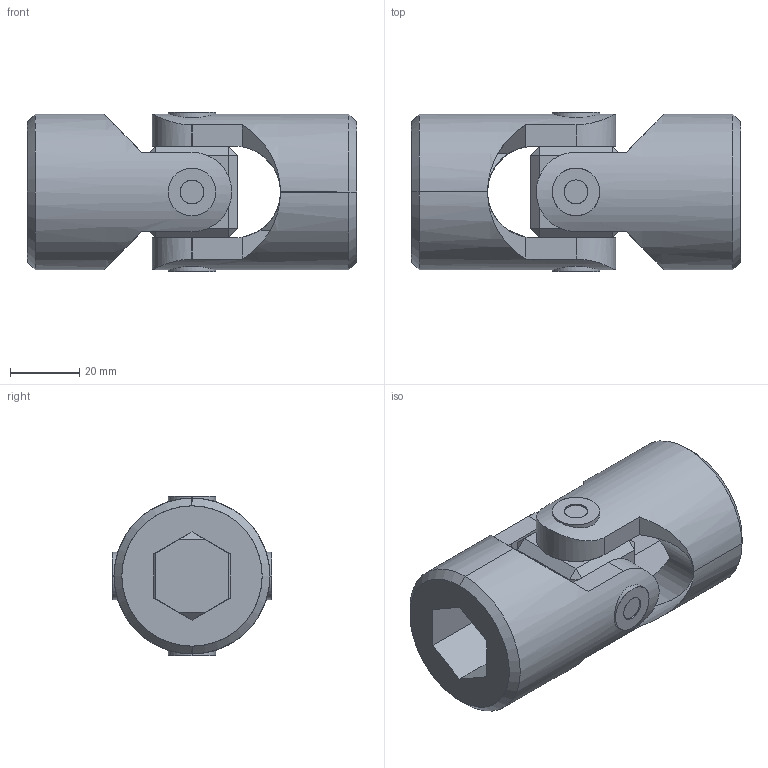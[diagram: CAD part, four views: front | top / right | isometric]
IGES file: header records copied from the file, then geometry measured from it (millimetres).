
Start section: SolidWorks IGES file using analytic representation for surfaces
Global section: file name: C:\Users\IanO\Desktop\R3690_v2\R3690_v2_20231020_IGES\R3690.022-HB.igs; native system: SolidWorks 2019; preprocessor: SolidWorks 2019; author: IanO; date: 231020.152801; units: millimetre
Bounding box: 95 x 45.9 x 45.9 mm (x, y, z)
Surface area: 31823.5 mm2 (no closed solid volume)
Topology: 0 solids, 0 shells, 112 faces, 2200 edges, 2200 vertices
Faces by surface type: bspline 68, revolution 44
